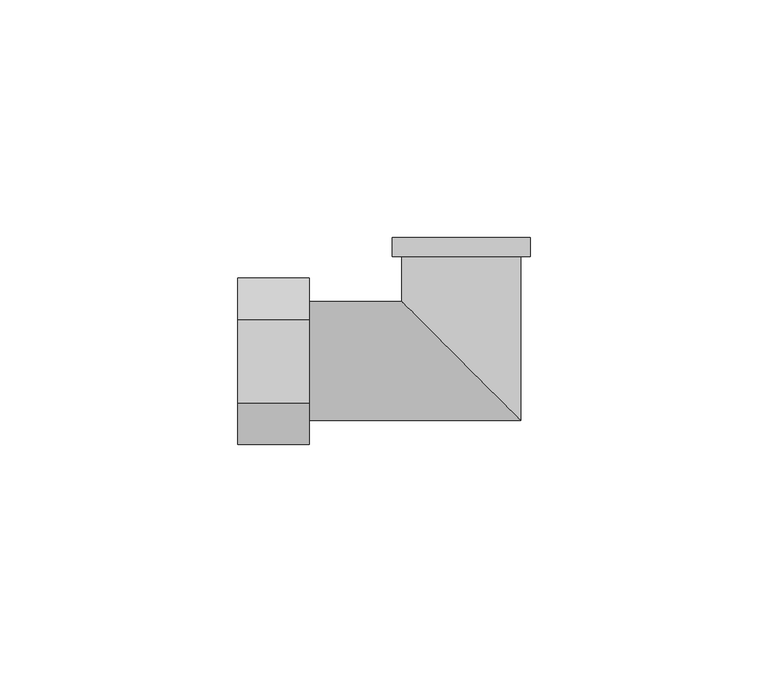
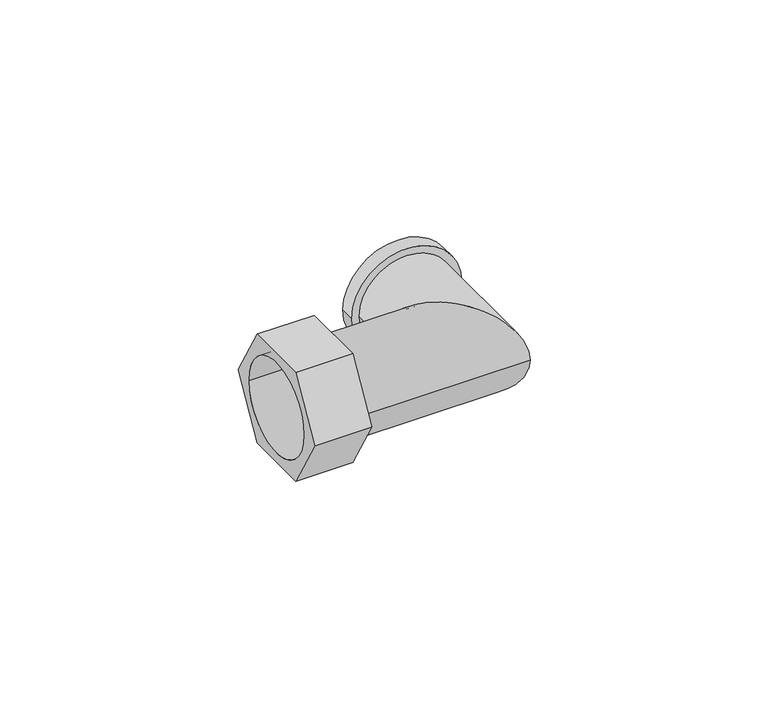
"""IFC4 building model written with IfcOpenShell, lengths in millimetres: pipe fitting geometry, БИР ПЕКС_КМП_Угольник_Резьба_Внутренняя : Угольник с внутренней резьбой_КМП."""

import ifcopenshell
import ifcopenshell.guid

model = None  # the IFC model being written
_history = None  # IfcOwnerHistory: only IFC2X3 demands one
_inside = {}  # id of a spatial element -> (the spatial element, [elements in it])
_under = {}  # id of a project, library or spatial element -> (it, [spatial elements below it])
_declared = {}  # id of a project -> (the project, [libraries it declares])
_typed = {}  # id of a type object -> (the type object, [elements of that type])
_made_of = {}  # id of a material, layer set ... -> (it, [elements and type objects made of it])


def new_model(schema):
    """Start an empty IFC model of exactly this schema.

    Asked for "IFC4X3", IfcOpenShell would pick the latest addendum, in which some entities
    have other attributes; the version numbers below select the first issue.
    IFC2X3 requires an IfcOwnerHistory on every rooted entity: one is made here for all.
    """
    global model, _history
    if schema == "IFC4X3":
        model = ifcopenshell.file(schema_version=(4, 3, 0, 0))
    else:
        model = ifcopenshell.file(schema=schema)
    _inside.clear()
    _under.clear()
    _declared.clear()
    _typed.clear()
    _made_of.clear()
    _history = None
    if model.schema == "IFC2X3":
        org = make("IfcOrganization", Name="unknown")
        user = make(
            "IfcPersonAndOrganization",
            ThePerson=make("IfcPerson", FamilyName="unknown"),
            TheOrganization=org,
        )
        app = make(
            "IfcApplication",
            ApplicationDeveloper=org,
            Version="unknown",
            ApplicationFullName="unknown",
            ApplicationIdentifier="unknown",
        )
        _history = make(
            "IfcOwnerHistory",
            OwningUser=user,
            OwningApplication=app,
            ChangeAction="ADDED",
            CreationDate=0,
        )
    return model


def make(cls, **values):
    """One entity of the class cls with the attributes given. An attribute that is None is left unset."""
    return model.create_entity(
        cls, **{name: value for name, value in values.items() if value is not None}
    )


def rooted(cls, **values):
    """An entity with a GlobalId (a new one), such as an element, a storey or a relation."""
    return make(cls, GlobalId=ifcopenshell.guid.new(), OwnerHistory=_history, **values)


def si_unit(unit_type, name, prefix=None):
    """IfcSIUnit, for example si_unit("LENGTHUNIT", "METRE", prefix="MILLI")."""
    return make("IfcSIUnit", UnitType=unit_type, Prefix=prefix, Name=name)


def assignment(units):
    """IfcUnitAssignment: the units of a project."""
    return None if units is None else make("IfcUnitAssignment", Units=units)


def point(xyz):
    """IfcCartesianPoint."""
    return None if xyz is None else make("IfcCartesianPoint", Coordinates=xyz)


def direction(xyz):
    """IfcDirection."""
    return None if xyz is None else make("IfcDirection", DirectionRatios=xyz)


def frame(location, z_axis=None, x_axis=None):
    """IfcAxis2Placement3D, a coordinate frame: its origin and axes. An axis left out is left unset."""
    return make(
        "IfcAxis2Placement3D",
        Location=point(location),
        Axis=direction(z_axis),
        RefDirection=direction(x_axis),
    )


def frame_2d(location, x_axis=None):
    """IfcAxis2Placement2D, a coordinate frame in the plane: its origin and x axis."""
    return make(
        "IfcAxis2Placement2D", Location=point(location), RefDirection=direction(x_axis)
    )


def origin():
    """The frame at (0, 0, 0) with its axes left unset."""
    return frame((0.0, 0.0, 0.0))


def origin_2d():
    """The frame at (0, 0) in the plane with its x axis left unset."""
    return frame_2d((0.0, 0.0))


def place(relative_to, where):
    """IfcLocalPlacement: puts the frame where relative to a parent placement (None: the world)."""
    return make(
        "IfcLocalPlacement", PlacementRelTo=relative_to, RelativePlacement=where
    )


def context(
    kind, dimensions, precision=None, world=None, true_north=None, identifier=None
):
    """IfcGeometricRepresentationContext, for example the 3D "Model" context."""
    return make(
        "IfcGeometricRepresentationContext",
        ContextIdentifier=identifier,
        ContextType=kind,
        CoordinateSpaceDimension=dimensions,
        Precision=precision,
        WorldCoordinateSystem=world,
        TrueNorth=true_north,
    )


def project(units=None, contexts=None):
    """IfcProject with its units and contexts."""
    return rooted(
        "IfcProject",
        Name="project",
        RepresentationContexts=contexts,
        UnitsInContext=assignment(units),
    )


def spatial(cls, under=None, at=None, **own):
    """A site, building, storey or space (cls), placed at a placement, below another one or the project."""
    s = rooted(cls, ObjectPlacement=at, **own)
    if under is not None:
        _under.setdefault(under.id(), (under, []))[1].append(s)
    return s


def polyline(points):
    """IfcPolyline through the points."""
    return make("IfcPolyline", Points=[point(p) for p in points])


def circle_curve(where, radius):
    """IfcCircle in the frame where."""
    return make("IfcCircle", Position=where, Radius=radius)


def ellipse_curve(where, semi_axis1, semi_axis2):
    """IfcEllipse in the frame where."""
    return make(
        "IfcEllipse", Position=where, SemiAxis1=semi_axis1, SemiAxis2=semi_axis2
    )


def trimmed(basis, trim1, trim2, sense, master):
    """IfcTrimmedCurve: the piece of a basis curve between two trims."""
    return make(
        "IfcTrimmedCurve",
        BasisCurve=basis,
        Trim1=trim1,
        Trim2=trim2,
        SenseAgreement=sense,
        MasterRepresentation=master,
    )


def segment(curve, same_sense, transition):
    """IfcCompositeCurveSegment."""
    return make(
        "IfcCompositeCurveSegment",
        Transition=transition,
        SameSense=same_sense,
        ParentCurve=curve,
    )


def composite_curve(segments, self_intersect=None):
    """IfcCompositeCurve: segments joined end to end."""
    return make("IfcCompositeCurve", Segments=segments, SelfIntersect=self_intersect)


def outline(outer, holes=None, kind="AREA"):
    """IfcArbitraryClosedProfileDef: a profile drawn as a closed curve; with holes, ...WithVoids."""
    if holes is None:
        return make("IfcArbitraryClosedProfileDef", ProfileType=kind, OuterCurve=outer)
    return make(
        "IfcArbitraryProfileDefWithVoids",
        ProfileType=kind,
        OuterCurve=outer,
        InnerCurves=holes,
    )


def extrude(swept, where, along, depth):
    """IfcExtrudedAreaSolid: the profile swept, set in the frame where, extruded along a direction by depth."""
    return make(
        "IfcExtrudedAreaSolid",
        SweptArea=swept,
        Position=where,
        ExtrudedDirection=direction(along),
        Depth=depth,
    )


def shape(context_of_items, identifier, shape_type, items):
    """IfcShapeRepresentation: the items that make up one representation, for example the "Body"."""
    return make(
        "IfcShapeRepresentation",
        ContextOfItems=context_of_items,
        RepresentationIdentifier=identifier,
        RepresentationType=shape_type,
        Items=items,
    )


def source(mapping_origin, context_of_items, identifier, shape_type, items):
    """IfcRepresentationMap: a shape defined once, which mapped items show again and again."""
    return make(
        "IfcRepresentationMap",
        MappingOrigin=mapping_origin,
        MappedRepresentation=shape(context_of_items, identifier, shape_type, items),
    )


def transform(
    local_origin,
    x_axis=None,
    y_axis=None,
    z_axis=None,
    scale=None,
    scale2=None,
    scale3=None,
    uniform=True,
):
    """IfcCartesianTransformationOperator3D, or its non-uniform kind. x_axis, y_axis, z_axis: its Axis1, 2, 3."""
    if uniform:
        return make(
            "IfcCartesianTransformationOperator3D",
            Axis1=direction(x_axis),
            Axis2=direction(y_axis),
            LocalOrigin=point(local_origin),
            Scale=scale,
            Axis3=direction(z_axis),
        )
    return make(
        "IfcCartesianTransformationOperator3DnonUniform",
        Axis1=direction(x_axis),
        Axis2=direction(y_axis),
        LocalOrigin=point(local_origin),
        Scale=scale,
        Axis3=direction(z_axis),
        Scale2=scale2,
        Scale3=scale3,
    )


def mapped(mapping_source, mapping_target):
    """IfcMappedItem: shows the shape of a source again, moved by a transform."""
    return make(
        "IfcMappedItem", MappingSource=mapping_source, MappingTarget=mapping_target
    )


def made_of(thing, what):
    """Note that an element or type object is made of a material, layer set ...; save() writes the relation."""
    if what is not None:
        _made_of.setdefault(what.id(), (what, []))[1].append(thing)
    return thing


def element(
    cls,
    number,
    at=None,
    inside=None,
    cuts=None,
    type_object=None,
    material=None,
    context=None,
    identifier="Body",
    shape_type=None,
    held_by="IfcProductDefinitionShape",
    body=None,
    shapes=None,
    **own,
):
    """One element of the class cls, such as IfcWall. Its Tag is "e" and its number.

    at: its placement. inside: the storey or other place that contains it. cuts: it is an
    opening in that element (IfcRelVoidsElement). A single representation is given by context,
    identifier, shape_type and body (its items); several are given by shapes. held_by: the class
    of the entity that holds the representations. save() writes the other relations.
    """
    e = rooted(cls, Tag="e%d" % number, ObjectPlacement=at, **own)
    if body is not None:
        shapes = [shape(context, identifier, shape_type, body)]
    if shapes is not None:
        e.Representation = make(held_by, Representations=shapes)
    if inside is not None:
        _inside.setdefault(inside.id(), (inside, []))[1].append(e)
    if cuts is not None:
        rooted(
            "IfcRelVoidsElement", RelatingBuildingElement=cuts, RelatedOpeningElement=e
        )
    if type_object is not None:
        _typed.setdefault(type_object.id(), (type_object, []))[1].append(e)
    return made_of(e, material)


def aggregate(whole, parts):
    """IfcRelAggregates: a whole, such as a stair, and the parts it consists of."""
    return rooted("IfcRelAggregates", RelatingObject=whole, RelatedObjects=parts)


def save(model, path):
    """Write the relations noted so far, then the file.

    IfcRelAggregates (storeys below a building ...), IfcRelContainedInSpatialStructure (elements
    in a storey), IfcRelDefinesByType, IfcRelAssociatesMaterial and IfcRelDeclares: one each for
    every whole, place, type object, material and project.
    """
    for whole, parts in _under.values():
        aggregate(whole, parts)
    for where, things in _inside.values():
        rooted(
            "IfcRelContainedInSpatialStructure",
            RelatedElements=things,
            RelatingStructure=where,
        )
    for kind, things in _typed.values():
        rooted("IfcRelDefinesByType", RelatedObjects=things, RelatingType=kind)
    for what, things in _made_of.values():
        rooted("IfcRelAssociatesMaterial", RelatedObjects=things, RelatingMaterial=what)
    for by, libraries in _declared.values():
        rooted("IfcRelDeclares", RelatingContext=by, RelatedDefinitions=libraries)
    model.write(path)


def plane_surface(at):
    """IfcPlane: the flat surface through the origin of the frame at, square to its z axis."""
    return make("IfcPlane", Position=at)


def cylinder_surface(at, radius):
    """IfcCylindricalSurface: all points at the distance radius from the z axis of the frame at."""
    return make("IfcCylindricalSurface", Position=at, Radius=radius)


def revolved_surface(curve, axis_point, axis_direction):
    """IfcSurfaceOfRevolution: the curve turned about the line through axis_point along axis_direction."""
    return make(
        "IfcSurfaceOfRevolution",
        SweptCurve=make("IfcArbitraryOpenProfileDef", ProfileType="CURVE", Curve=curve),
        AxisPosition=make("IfcAxis1Placement", Location=point(axis_point), Axis=direction(axis_direction)),
    )


def advanced_brep(points, edges, surfaces, faces):
    """IfcAdvancedBrep: a solid bounded by faces that lie on surfaces and meet in shared edges.

    An edge is (start, end): straight between two places in points (the first is 0);
    or (start, end, curve); or (start, end, curve, False) where it runs against its curve.
    A face is (place in surfaces, loops), or (place, loops, False) where it looks against
    its surface's normal. A loop lists edges by number (the first is 1), with a minus sign
    where the edge is run from its end to its start. The first loop is the outer one.
    """
    corners = [point(p) for p in points]
    vertices = [make("IfcVertexPoint", VertexGeometry=c) for c in corners]
    made = []
    for start, end, *more in edges:
        made.append(
            make(
                "IfcEdgeCurve",
                EdgeStart=vertices[start],
                EdgeEnd=vertices[end],
                EdgeGeometry=more[0] if more else make("IfcPolyline", Points=[corners[start], corners[end]]),
                SameSense=more[1] if len(more) > 1 else True,
            )
        )
    hull = []
    for where, loops, *sense in faces:
        bounds = []
        for j, loop in enumerate(loops):
            ring = [make("IfcOrientedEdge", EdgeElement=made[abs(k) - 1], Orientation=k > 0) for k in loop]
            bounds.append(
                make(
                    "IfcFaceOuterBound" if j == 0 else "IfcFaceBound",
                    Bound=make("IfcEdgeLoop", EdgeList=ring),
                    Orientation=True,
                )
            )
        hull.append(make("IfcAdvancedFace", Bounds=bounds, FaceSurface=surfaces[where], SameSense=sense[0] if sense else True))
    return make("IfcAdvancedBrep", Outer=make("IfcClosedShell", CfsFaces=hull))


def pipe_fitting_ef594ddb(model_context):
    return source(origin(), model_context, "Body", "SolidModel", [
        extrude(outline(polyline([(-8.75, -15.1554446), (-17.5, 0.0), (-8.75, 15.1554446), (8.75, 15.1554446), (17.5, 0.0), (8.75, -15.1554446), (-8.75, -15.1554446)]), holes=[composite_curve([segment(trimmed(circle_curve(origin_2d(), 12.5), [point((-12.5, 0.0))], [point((12.5, 0.0))], True, "CARTESIAN"), True, "CONTINUOUS"), segment(trimmed(circle_curve(origin_2d(), 12.5), [point((12.5, 0.0))], [point((-12.5, 0.0))], True, "CARTESIAN"), True, "CONTINUOUS")], self_intersect=False)]), frame((-47.0, 0.0, 0.0), z_axis=(1.0, 0.0, 0.0), x_axis=(0.0, 1.0, 0.0)), (0.0, 0.0, 1.0), 15.0),
        advanced_brep(
        [(-32.0, -12.5, 0.0), (-32.0, 12.5, 0.0), (-32.0, -12.0, 0.0), (-32.0, 12.0, 0.0), (12.5, -12.5, 0.0), (-12.5, 12.5, 0.0), (-14.5, 26.0, 0.0), (14.5, 26.0, 0.0), (12.0, 26.0, 0.0), (-12.0, 26.0, 0.0), (12.5, 22.0, 0.0), (-12.5, 22.0, 0.0), (-14.5, 22.0, 0.0), (14.5, 22.0, 0.0), (12.0, -12.0, 0.0), (-12.0, 12.0, 0.0), (-12.0, 22.0, 0.0), (12.0, 22.0, 0.0)],
        [
            (0, 1, circle_curve(frame((-32.0, 0.0, 0.0), z_axis=(-1.0, 0.0, 0.0), x_axis=(0.0, 1.0, 0.0)), 12.5)),
            (1, 0, circle_curve(frame((-32.0, 0.0, 0.0), z_axis=(-1.0, 0.0, 0.0), x_axis=(0.0, 1.0, 0.0)), 12.5)),
            (2, 3, circle_curve(frame((-32.0, 0.0, 0.0), z_axis=(1.0, 0.0, 0.0), x_axis=(0.0, 1.0, 0.0)), 12.0)),
            (3, 2, circle_curve(frame((-32.0, 0.0, 0.0), z_axis=(1.0, 0.0, 0.0), x_axis=(0.0, 1.0, 0.0)), 12.0)),
            (0, 4),
            (4, 5, ellipse_curve(frame((0.0, 0.0, 0.0), z_axis=(-0.7071067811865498, -0.7071067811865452, 0.0), x_axis=(-0.7071067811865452, 0.7071067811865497, 0.0)), 17.6776695, 12.5)),
            (5, 1),
            (5, 4, ellipse_curve(frame((0.0, 0.0, 0.0), z_axis=(-0.7071067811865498, -0.7071067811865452, 0.0), x_axis=(-0.7071067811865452, 0.7071067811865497, 0.0)), 17.6776695, 12.5)),
            (6, 7, circle_curve(frame((0.0, 26.0, 0.0), z_axis=(0.0, 1.0, 0.0), x_axis=(1.0, 0.0, 0.0)), 14.5)),
            (7, 6, circle_curve(frame((0.0, 26.0, 0.0), z_axis=(0.0, 1.0, 0.0), x_axis=(1.0, 0.0, 0.0)), 14.5)),
            (8, 9, circle_curve(frame((0.0, 26.0, 0.0), z_axis=(0.0, -1.0, 0.0), x_axis=(-1.0, 0.0, 0.0)), 12.0)),
            (9, 8, circle_curve(frame((0.0, 26.0, 0.0), z_axis=(0.0, -1.0, 0.0), x_axis=(-1.0, 0.0, 0.0)), 12.0)),
            (4, 10),
            (10, 11, circle_curve(frame((0.0, 22.0, 0.0), z_axis=(0.0, -1.0, 0.0), x_axis=(-1.0, 0.0, 0.0)), 12.5)),
            (11, 5),
            (11, 10, circle_curve(frame((0.0, 22.0, 0.0), z_axis=(0.0, -1.0, 0.0), x_axis=(-1.0, 0.0, 0.0)), 12.5)),
            (12, 13, circle_curve(frame((0.0, 22.0, 0.0), z_axis=(0.0, -1.0, 0.0), x_axis=(1.0, 0.0, 0.0)), 14.5)),
            (13, 12, circle_curve(frame((0.0, 22.0, 0.0), z_axis=(0.0, -1.0, 0.0), x_axis=(1.0, 0.0, 0.0)), 14.5)),
            (12, 6),
            (7, 13),
            (2, 14),
            (14, 15, ellipse_curve(frame((0.0, 0.0, 0.0), z_axis=(0.7071067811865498, 0.7071067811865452, 0.0), x_axis=(0.7071067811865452, -0.7071067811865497, 0.0)), 16.9705627, 12.0)),
            (15, 3),
            (15, 14, ellipse_curve(frame((0.0, 0.0, 0.0), z_axis=(0.7071067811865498, 0.7071067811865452, 0.0), x_axis=(0.7071067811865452, -0.7071067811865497, 0.0)), 16.9705627, 12.0)),
            (9, 16),
            (16, 15),
            (14, 17),
            (17, 8),
        ],
        [
            plane_surface(frame((-32.0, 0.0, 0.0), z_axis=(-1.0, 0.0, 0.0), x_axis=(0.0, 0.0, 1.0))),
            cylinder_surface(frame((-32.0, 0.0, 0.0), z_axis=(-1.0, 0.0, 0.0), x_axis=(0.0, 1.0, 0.0)), 12.5),
            plane_surface(frame((0.0, 26.0, 0.0), z_axis=(0.0, 1.0, 0.0), x_axis=(0.0, 0.0, 1.0))),
            cylinder_surface(frame((0.0, 0.0, 0.0), z_axis=(0.0, -1.0, 0.0), x_axis=(-1.0, 0.0, 0.0)), 12.5),
            plane_surface(frame((14.5, 22.0, 0.0), z_axis=(0.0, -1.0, 0.0), x_axis=(0.0, 0.0, 1.0))),
            cylinder_surface(frame((0.0, 26.0, 0.0), z_axis=(0.0, -1.0, 0.0), x_axis=(1.0, 0.0, 0.0)), 14.5),
            revolved_surface(polyline([(12.0, 12.0, 0.0), (-32.0, 12.0, 0.0)]), (-32.0, 0.0, 0.0), (1.0, 0.0, 0.0)),
            revolved_surface(polyline([(-12.0, 26.0, 0.0), (-12.0, -12.0, 0.0)]), (0.0, 0.0, 0.0), (0.0, 1.0, 0.0)),
        ],
        [
            (0, [[1, 2], [3, 4]]),
            (1, [[-1, 5, 6, 7]]),
            (1, [[-2, -7, 8, -5]]),
            (2, [[9, 10], [11, 12]]),
            (3, [[-6, 13, 14, 15]]),
            (3, [[-8, -15, 16, -13]]),
            (4, [[17, 18], [-14, -16]]),
            (5, [[-17, 19, -10, 20]]),
            (5, [[-18, -20, -9, -19]]),
            (6, [[-3, 21, 22, 23]]),
            (6, [[-4, -23, 24, -21]]),
            (7, [[-12, 25, 26, -22, 27, 28]]),
            (7, [[-11, -28, -27, -24, -26, -25]]),
        ],
    ),
    ])


if __name__ == "__main__":
    model = new_model("IFC4")
    model_context = context("Model", 3, world=origin())
    ifc_project = project(units=[si_unit("LENGTHUNIT", "METRE", prefix="MILLI")], contexts=[model_context])
    site = spatial("IfcSite", under=ifc_project)
    building = spatial("IfcBuilding", under=site)
    placement = place(None, origin())
    pipe_fitting_shape = pipe_fitting_ef594ddb(model_context)
    element("IfcPipeFitting", 1, ObjectType="БИР ПЕКС_КМП_Угольник_Резьба_Внутренняя : Угольник с внутренней резьбой_КМП", at=placement, inside=building, context=model_context, shape_type="MappedRepresentation", body=[
        mapped(pipe_fitting_shape, transform((0.0, 0.0, 0.0), x_axis=(1.0, 0.0, 0.0), y_axis=(0.0, 1.0, 0.0), z_axis=(0.0, 0.0, 1.0))),
    ])
    save(model, "model.ifc")
